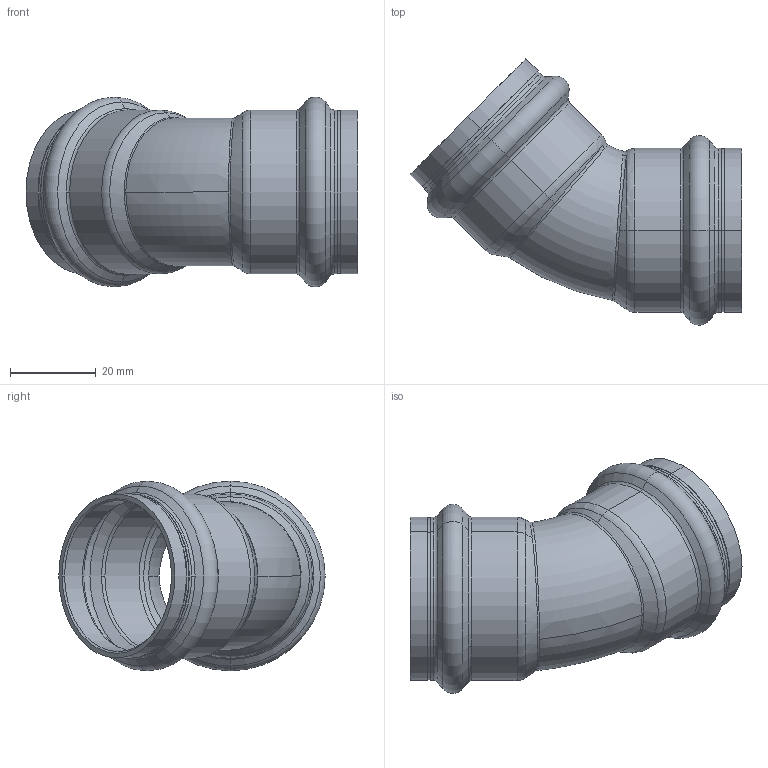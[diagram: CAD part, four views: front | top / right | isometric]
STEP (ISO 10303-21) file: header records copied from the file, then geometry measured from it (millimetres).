
FILE_DESCRIPTION (( 'STEP AP203' ), '1' );
FILE_NAME ('SP5041 Ø35.STEP', '2017-04-24T08:15:26', ( '' ), ( '' ), 'SwSTEP 2.0', 'SolidWorks 2016', '' );
FILE_SCHEMA (( 'CONFIG_CONTROL_DESIGN' ));
Length unit declared in the file: millimetre
Products named in the file (1): SP5041 ﾘ35
Bounding box: 77.56 x 62.21 x 44.3 mm (x, y, z)
Volume: 13830.8 mm3; surface area: 18580.8 mm2
Topology: 1 solids, 1 shells, 100 faces, 228 edges, 134 vertices
Faces by surface type: torus 36, cone 30, cylinder 24, plane 6, bspline 4
Entity records: 4114 total; most frequent: CARTESIAN_POINT 1728, DIRECTION 550, ORIENTED_EDGE 456, AXIS2_PLACEMENT_3D 249, EDGE_CURVE 228, CIRCLE 152, VERTEX_POINT 134, EDGE_LOOP 106
